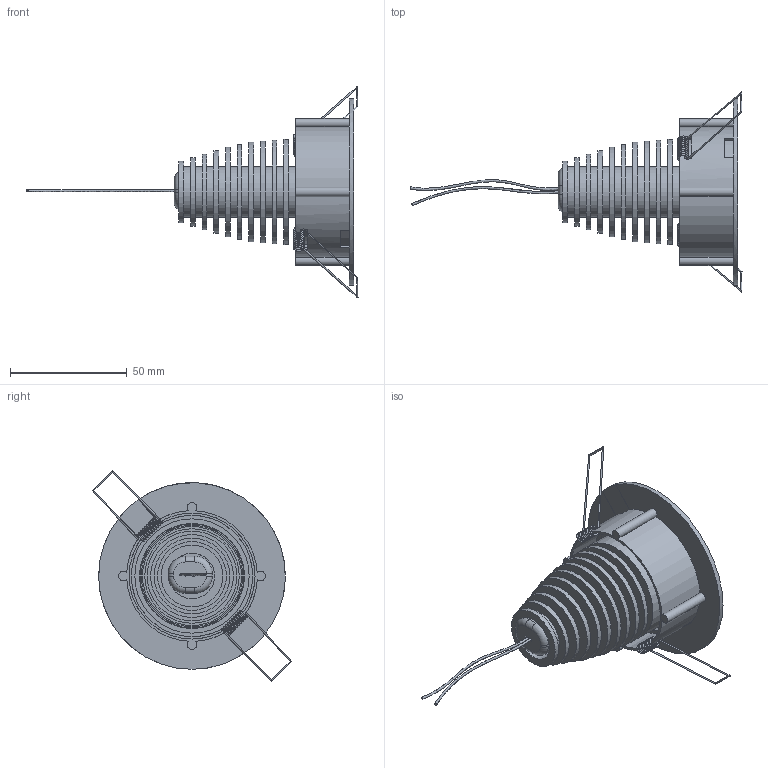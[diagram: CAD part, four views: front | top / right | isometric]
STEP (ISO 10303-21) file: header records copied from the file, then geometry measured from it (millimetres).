
FILE_DESCRIPTION(/* description */ (''),/* implementation_level */ '2;1');
FILE_NAME(/* name */ 'C:/Users/elena/Desktop/LF04 HV.step',/* time_stamp */ '2020-07-07T10:37:17+02:00',/* author */ (''),/* organization */ (''),/* preprocessor_version */ 'ST-DEVELOPER v18.1',/* originating_system */ 'Autodesk Translation Framework v9.3.0.1241',/* authorisation */ '');
FILE_SCHEMA (('AUTOMOTIVE_DESIGN { 1 0 10303 214 3 1 1 }'));
Length unit declared in the file: millimetre
Products named in the file (1): (Unsaved)
Bounding box: 142.27 x 85.65 x 90.6 mm (x, y, z)
Volume: 70066.8 mm3; surface area: 54520.8 mm2
Topology: 6 solids, 6 shells, 142 faces, 340 edges, 228 vertices
Faces by surface type: plane 78, cylinder 53, bspline 7, torus 4
Full cylindrical faces by diameter (mm): 0.624 x8, 3 x1, 21.5 x10, 26.5 x1, 29.5 x1, 32.5 x1, 35.5 x1, 38.5 x1, 40.5 x1, 42.5 x1, 43.5 x1, 44.5 x1, 45 x1, 45.005 x1, 49 x1, 50 x1, 52 x2, 54 x1, 80 x1
Entity records: 10164 total; most frequent: CARTESIAN_POINT 6694, DIRECTION 736, ORIENTED_EDGE 688, EDGE_CURVE 344, AXIS2_PLACEMENT_3D 290, VERTEX_POINT 230, EDGE_LOOP 168, LINE 156
